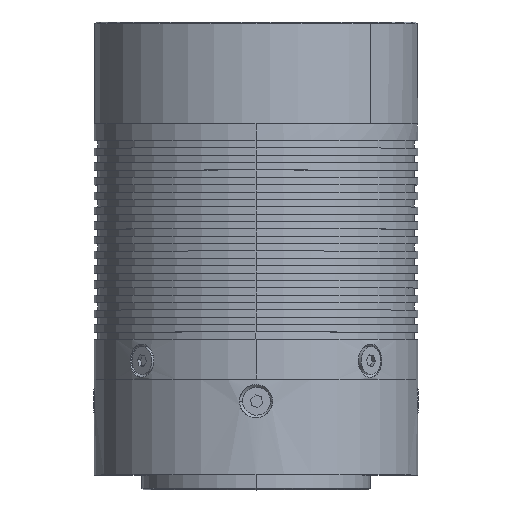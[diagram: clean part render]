
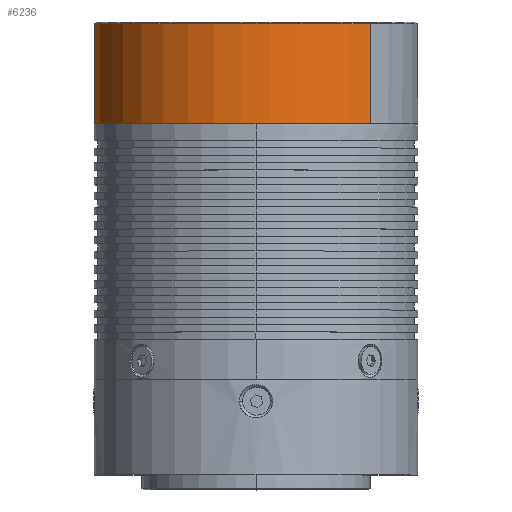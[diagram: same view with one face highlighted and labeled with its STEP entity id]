
A CAD part, top view. The second image highlights one B-rep face of the part: STEP entity #6236.
In plain terms, the highlighted cylindrical face has radius 22 mm (diameter 44 mm), a partial arc.
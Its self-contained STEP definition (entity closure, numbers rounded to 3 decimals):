
#220 = CIRCLE ( 'NONE', #6608, 22. ) ;
#244 = VECTOR ( 'NONE', #5598, 1000. ) ;
#1026 = CARTESIAN_POINT ( 'NONE',  ( 0., 14.1, -22. ) ) ;
#1246 = ORIENTED_EDGE ( 'NONE', *, *, #2474, .F. ) ;
#1645 = DIRECTION ( 'NONE',  ( 0., -1., 0. ) ) ;
#1706 = EDGE_CURVE ( 'NONE', #8667, #3501, #220, .T. ) ;
#2071 = CYLINDRICAL_SURFACE ( 'NONE', #4871, 22. ) ;
#2474 = EDGE_CURVE ( 'NONE', #8667, #11306, #10442, .T. ) ;
#2645 = EDGE_LOOP ( 'NONE', ( #1246, #6343, #12504, #12280 ) ) ;
#3501 = VERTEX_POINT ( 'NONE', #1026 ) ;
#4476 = CARTESIAN_POINT ( 'NONE',  ( 0., 13.4, 0. ) ) ;
#4685 = EDGE_CURVE ( 'NONE', #3501, #14022, #15978, .T. ) ;
#4871 = AXIS2_PLACEMENT_3D ( 'NONE', #4476, #7152, #15836 ) ;
#5598 = DIRECTION ( 'NONE',  ( 0., -1., 0. ) ) ;
#5621 = DIRECTION ( 'NONE',  ( 0., -1., 0. ) ) ;
#6236 = ADVANCED_FACE ( 'NONE', ( #8338 ), #2071, .T. ) ;
#6343 = ORIENTED_EDGE ( 'NONE', *, *, #1706, .T. ) ;
#6608 = AXIS2_PLACEMENT_3D ( 'NONE', #8235, #1645, #8324 ) ;
#6810 = DIRECTION ( 'NONE',  ( 0., -1., 0. ) ) ;
#6989 = CARTESIAN_POINT ( 'NONE',  ( 0., 0.5, 22. ) ) ;
#7152 = DIRECTION ( 'NONE',  ( 0., -1., 0. ) ) ;
#8235 = CARTESIAN_POINT ( 'NONE',  ( 0., 14.1, 0. ) ) ;
#8324 = DIRECTION ( 'NONE',  ( 0., 0., 1. ) ) ;
#8338 = FACE_OUTER_BOUND ( 'NONE', #2645, .T. ) ;
#8667 = VERTEX_POINT ( 'NONE', #12289 ) ;
#9210 = EDGE_CURVE ( 'NONE', #11306, #14022, #9293, .T. ) ;
#9293 = CIRCLE ( 'NONE', #15966, 22. ) ;
#9296 = CARTESIAN_POINT ( 'NONE',  ( 0., 13.4, -22. ) ) ;
#10442 = LINE ( 'NONE', #13026, #244 ) ;
#10709 = VECTOR ( 'NONE', #5621, 1000. ) ;
#11306 = VERTEX_POINT ( 'NONE', #6989 ) ;
#12280 = ORIENTED_EDGE ( 'NONE', *, *, #9210, .F. ) ;
#12289 = CARTESIAN_POINT ( 'NONE',  ( 0., 14.1, 22. ) ) ;
#12504 = ORIENTED_EDGE ( 'NONE', *, *, #4685, .T. ) ;
#12728 = CARTESIAN_POINT ( 'NONE',  ( 0., 0.5, -22. ) ) ;
#13026 = CARTESIAN_POINT ( 'NONE',  ( 0., 13.4, 22. ) ) ;
#14022 = VERTEX_POINT ( 'NONE', #12728 ) ;
#14243 = DIRECTION ( 'NONE',  ( 0., 0., -1. ) ) ;
#15403 = CARTESIAN_POINT ( 'NONE',  ( 0., 0.5, 0. ) ) ;
#15836 = DIRECTION ( 'NONE',  ( 0., 0., -1. ) ) ;
#15966 = AXIS2_PLACEMENT_3D ( 'NONE', #15403, #6810, #14243 ) ;
#15978 = LINE ( 'NONE', #9296, #10709 ) ;
